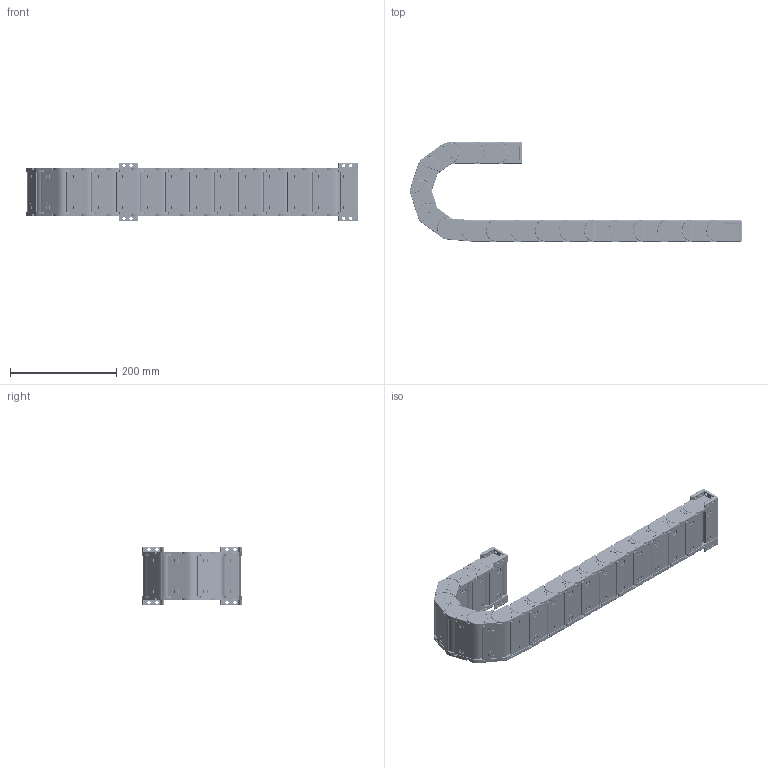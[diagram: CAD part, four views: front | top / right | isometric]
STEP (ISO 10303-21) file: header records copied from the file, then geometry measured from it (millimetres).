
FILE_DESCRIPTION (( 'STEP AP203' ), '1' );
FILE_NAME ('J25F.1.75S猾敕宒--俋耜羲.STEP', '2017-12-16T03:19:08', ( '' ), ( '' ), 'SwSTEP 2.0', 'SolidWorks 2016', '' );
FILE_SCHEMA (( 'CONFIG_CONTROL_DESIGN' ));
Length unit declared in the file: millimetre
Products named in the file (10): 25-崝Ч翋极1; J25F.1.75S猾敕宒--俋耜羲; 25-崝Ч翋极2; N25-囀猾敕え; N25-俋猾敕え.2; N25X57-增强3D-1 - 副本; 25-崝Ч源諉芛囀; N25X75-囀諉芛 - 萵掛; 25-崝Ч源諉芛俋; N25X75-俋諉芛 - 萵掛
Assembly tree (31 placements, depth 3):
  J25F.1.75S猾敕宒--俋耜羲
    N25X57-增强3D-1 - 副本  x17
      25-崝Ч翋极1
      25-崝Ч翋极2
      N25-囀猾敕え
      N25-俋猾敕え.2
    N25X75-囀諉芛 - 萵掛
      25-崝Ч源諉芛囀  x2
      N25-囀猾敕え  x2
    N25X75-俋諉芛 - 萵掛
      25-崝Ч源諉芛俋  x2
      N25-囀猾敕え  x2
Bounding box: 623.94 x 186.39 x 109 mm (x, y, z)
Volume: 965655.5 mm3; surface area: 739148.8 mm2
Topology: 76 solids, 76 shells, 19781 faces, 53747 edges, 34150 vertices
Faces by surface type: plane 8811, cylinder 5690, bspline 3842, torus 1360, sphere 78
Entity records: 49575 total; most frequent: CARTESIAN_POINT 17331, ORIENTED_EDGE 6766, DIRECTION 5911, EDGE_CURVE 3383, VERTEX_POINT 2166, AXIS2_PLACEMENT_3D 1973, LINE 1965, VECTOR 1965
